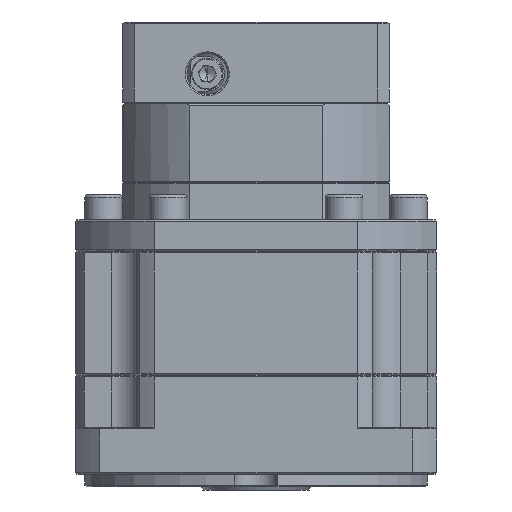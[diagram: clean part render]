
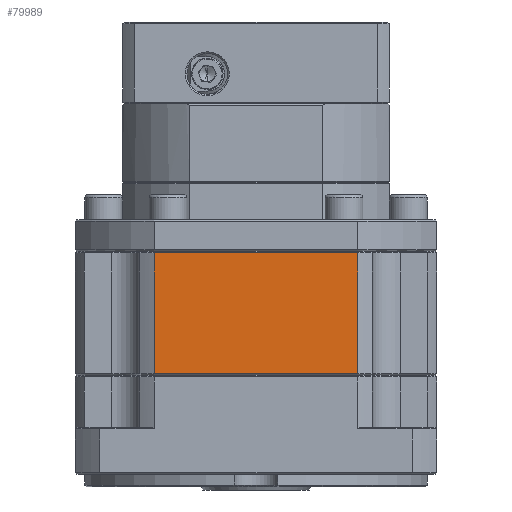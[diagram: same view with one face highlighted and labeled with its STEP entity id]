
A CAD part, front view. The second image highlights one B-rep face of the part: STEP entity #79989.
In plain terms, the highlighted planar face has unit normal (0, -1, 0).
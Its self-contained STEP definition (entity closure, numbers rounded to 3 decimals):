
#15621 = CARTESIAN_POINT ( 'NONE',  ( -92.295, 10.886, 9.017 ) ) ;
#15784 = EDGE_CURVE ( 'NONE', #42357, #32673, #91723, .T. ) ;
#15930 = DIRECTION ( 'NONE',  ( 0., 1., 0. ) ) ;
#19627 = CARTESIAN_POINT ( 'NONE',  ( -124.695, 10.886, 8.517 ) ) ;
#22065 = CARTESIAN_POINT ( 'NONE',  ( -92.295, 10.886, 8.517 ) ) ;
#25783 = CARTESIAN_POINT ( 'NONE',  ( -157.094, 10.886, -29.983 ) ) ;
#30416 = ORIENTED_EDGE ( 'NONE', *, *, #15784, .F. ) ;
#32673 = VERTEX_POINT ( 'NONE', #94836 ) ;
#33147 = PLANE ( 'NONE',  #65012 ) ;
#37355 = CARTESIAN_POINT ( 'NONE',  ( -157.094, 10.886, 8.517 ) ) ;
#38767 = VERTEX_POINT ( 'NONE', #25783 ) ;
#39057 = EDGE_CURVE ( 'NONE', #38767, #63036, #43907, .T. ) ;
#42357 = VERTEX_POINT ( 'NONE', #22065 ) ;
#42705 = ORIENTED_EDGE ( 'NONE', *, *, #82760, .F. ) ;
#43907 = LINE ( 'NONE', #47139, #90211 ) ;
#46029 = DIRECTION ( 'NONE',  ( 1., 0., 0. ) ) ;
#46427 = CARTESIAN_POINT ( 'NONE',  ( -67.195, 10.886, -29.983 ) ) ;
#47139 = CARTESIAN_POINT ( 'NONE',  ( -157.094, 10.886, 9.017 ) ) ;
#47645 = VECTOR ( 'NONE', #46029, 1000. ) ;
#50353 = LINE ( 'NONE', #19627, #47645 ) ;
#51482 = VECTOR ( 'NONE', #55138, 1000. ) ;
#55138 = DIRECTION ( 'NONE',  ( -1., 0., 0. ) ) ;
#63036 = VERTEX_POINT ( 'NONE', #37355 ) ;
#65012 = AXIS2_PLACEMENT_3D ( 'NONE', #68197, #15930, #76920 ) ;
#68197 = CARTESIAN_POINT ( 'NONE',  ( -67.195, 10.886, 9.017 ) ) ;
#68549 = VECTOR ( 'NONE', #94198, 1000. ) ;
#71065 = ORIENTED_EDGE ( 'NONE', *, *, #39057, .F. ) ;
#74634 = LINE ( 'NONE', #46427, #51482 ) ;
#76920 = DIRECTION ( 'NONE',  ( -1., 0., 0. ) ) ;
#76958 = EDGE_LOOP ( 'NONE', ( #80135, #30416, #42705, #71065 ) ) ;
#79989 = ADVANCED_FACE ( 'NONE', ( #102773 ), #33147, .F. ) ;
#80135 = ORIENTED_EDGE ( 'NONE', *, *, #101751, .F. ) ;
#82760 = EDGE_CURVE ( 'NONE', #63036, #42357, #50353, .T. ) ;
#90211 = VECTOR ( 'NONE', #108083, 1000. ) ;
#91723 = LINE ( 'NONE', #15621, #68549 ) ;
#94198 = DIRECTION ( 'NONE',  ( 0., 0., -1. ) ) ;
#94836 = CARTESIAN_POINT ( 'NONE',  ( -92.295, 10.886, -29.983 ) ) ;
#101751 = EDGE_CURVE ( 'NONE', #32673, #38767, #74634, .T. ) ;
#102773 = FACE_OUTER_BOUND ( 'NONE', #76958, .T. ) ;
#108083 = DIRECTION ( 'NONE',  ( 0., 0., 1. ) ) ;
